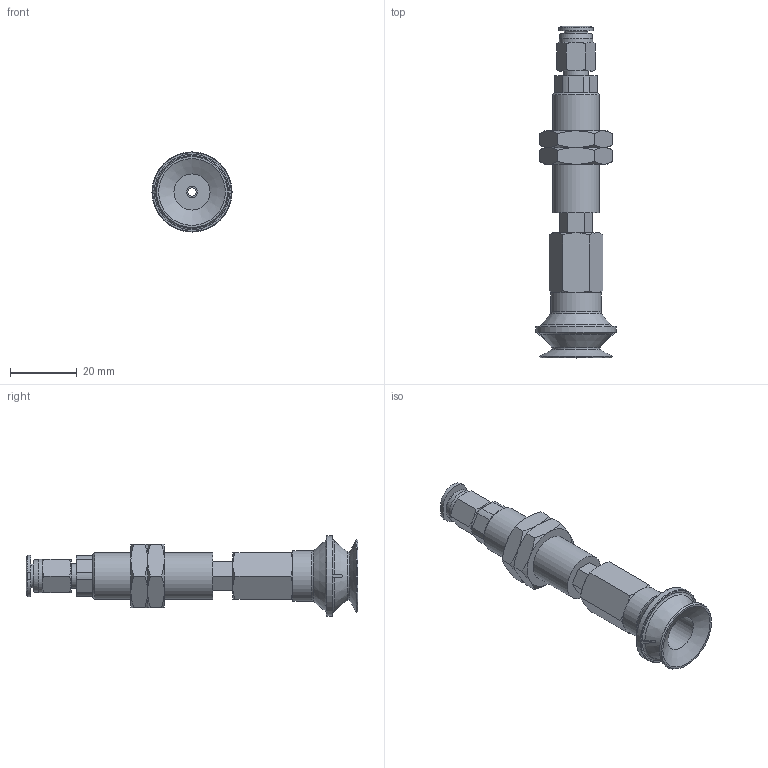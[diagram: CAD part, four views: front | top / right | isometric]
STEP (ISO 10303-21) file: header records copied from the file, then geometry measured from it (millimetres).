
FILE_DESCRIPTION(('STEP AP203'),'1');
FILE_NAME('-O.stp','2025-08-27T00:56:52',(' '),(' '),'Spatial InterOp 3D',' ',' ');
FILE_SCHEMA(('CONFIG_CONTROL_DESIGN'));
Length unit declared in the file: millimetre
Products named in the file (8): BNABPBTH-20-6-※-O; ADAPTER; NAPBTH-20-6-MBODY; Adapter20-T-NAPB; Nut-20-S-PB; NAPBTH-20-6-FBODY; BPBG-20-※; PC-C_06-M5
Assembly tree (8 placements, depth 2):
  BNABPBTH-20-6-※-O
    ADAPTER
    NAPBTH-20-6-MBODY
    Adapter20-T-NAPB
    Nut-20-S-PB  x2
    NAPBTH-20-6-FBODY
    BPBG-20-※
    PC-C_06-M5
Bounding box: 24 x 99.48 x 24 mm (x, y, z)
Volume: 14316.3 mm3; surface area: 12120.2 mm2
Topology: 7 solids, 10 shells, 200 faces, 434 edges, 266 vertices
Faces by surface type: plane 86, cone 67, cylinder 29, torus 11, bspline 4, revolution 3
Full cylindrical faces by diameter (mm): 2.5 x1, 3 x2, 4 x2, 4.134 x2, 4.6 x1, 5 x2, 7 x1, 7.4 x1, 8.2 x1, 10 x1, 10.8 x1, 11 x1, 12.917 x2, 14 x1, 15 x1, 24 x1
Entity records: 5374 total; most frequent: CARTESIAN_POINT 1427, DIRECTION 741, ORIENTED_EDGE 654, EDGE_CURVE 329, AXIS2_PLACEMENT_3D 309, EDGE_LOOP 250, VERTEX_POINT 227, FACE_OUTER_BOUND 146
